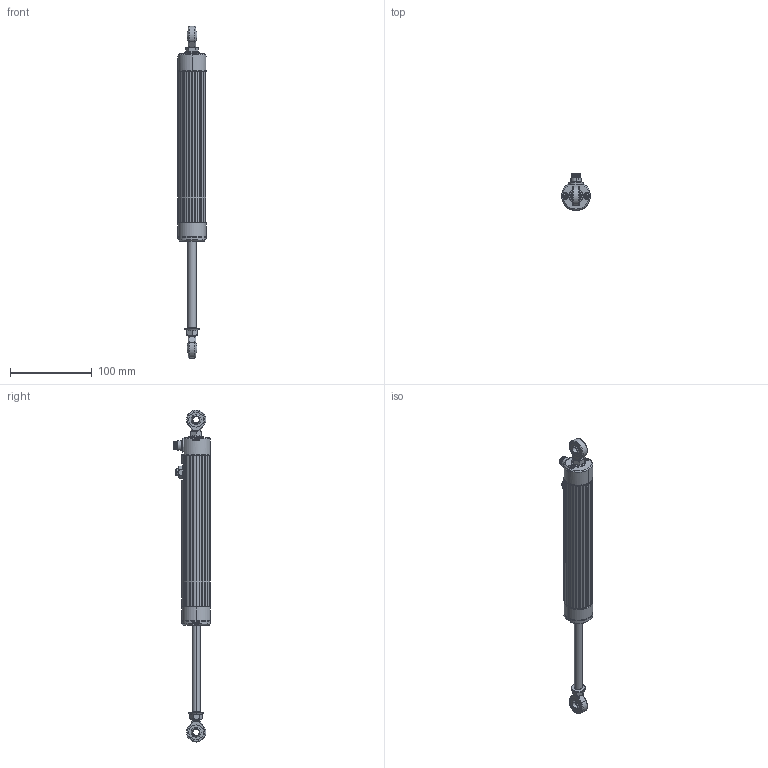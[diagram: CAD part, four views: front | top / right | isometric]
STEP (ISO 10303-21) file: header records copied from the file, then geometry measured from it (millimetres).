
FILE_DESCRIPTION (( 'STEP AP214' ), '1' );
FILE_NAME ('0100.STEP', '2009-01-28T08:02:57', ( 'novotechnik' ), ( 'novotechnik' ), 'SwSTEP 2.0', 'SolidWorks 2009', '' );
FILE_SCHEMA (( 'AUTOMOTIVE_DESIGN' ));
Length unit declared in the file: millimetre
Products named in the file (3): 0100_Bew; 0100
Assembly tree (2 placements, depth 2):
  0100
    0100
    0100_Bew
Bounding box: 35 x 45.1 x 405.6 mm (x, y, z)
Volume: 237829 mm3; surface area: 61931.7 mm2
Topology: 30 solids, 30 shells, 1046 faces, 2643 edges, 1679 vertices
Faces by surface type: cylinder 431, plane 324, cone 173, bspline 70, torus 32, sphere 16
Entity records: 46204 total; most frequent: CARTESIAN_POINT 9189, DIRECTION 5496, ORIENTED_EDGE 5282, EDGE_CURVE 2641, AXIS2_PLACEMENT_3D 2162, VERTEX_POINT 1679, CIRCLE 1181, LINE 1172
